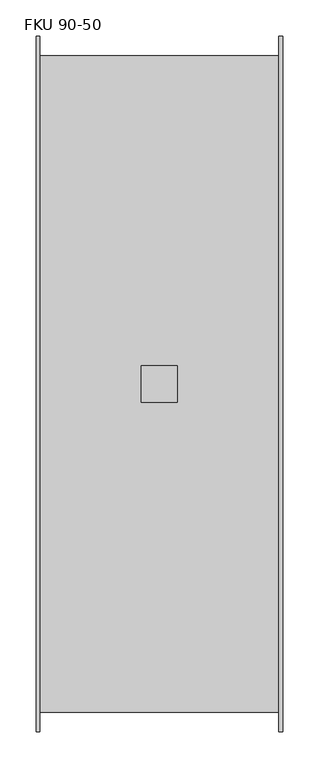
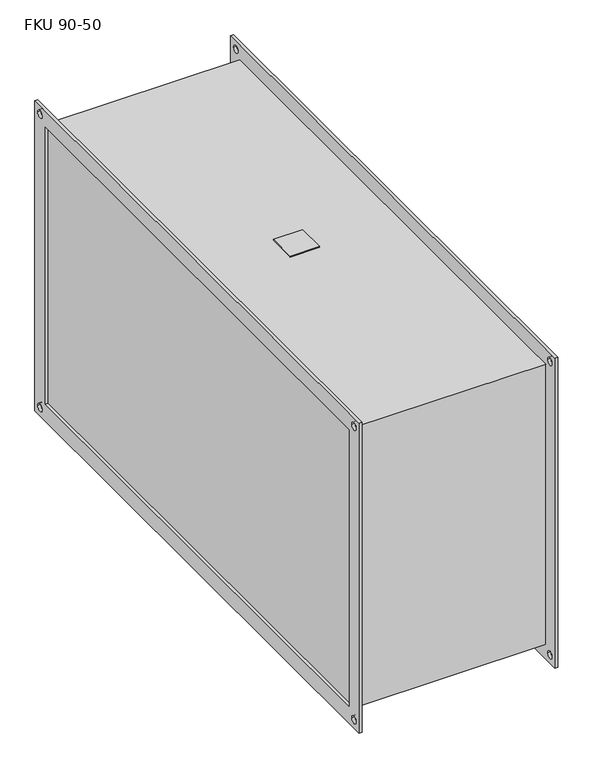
"""IFC4 building model written with IfcOpenShell, lengths in millimetres: damper geometry, KORF_Фильтр_Карманный_Укороченный_FKU : FKU 90-50."""

from ifc_helpers import new_model, si_unit, point, frame, frame_2d, origin, place, context, project, spatial, polyline, circle_curve, trimmed, segment, composite_curve, outline, extrude, source, transform, mapped, element, save


def fku_90_50_6f7e69bd(model_context):
    return source(origin(), model_context, "Body", "SweptSolid", [
        extrude(outline(polyline([(145.0, -25.0), (145.0, 25.0), (195.0, 25.0), (195.0, -25.0), (145.0, -25.0)])), frame((0.0, 0.0, 253.0), z_axis=(0.0, 0.0, 1.0), x_axis=(1.0, 0.0, 0.0)), (0.0, 0.0, 1.0), 2.0),
        extrude(outline(polyline([(-480.0, 280.0), (480.0, 280.0), (480.0, -280.0), (-480.0, -280.0), (-480.0, 280.0)]), holes=[polyline([(-450.0, 250.0), (-450.0, -250.0), (450.0, -250.0), (450.0, 250.0), (-450.0, 250.0)]), composite_curve([segment(trimmed(circle_curve(frame_2d((465.0, 265.0)), 6.5), [point((458.5, 265.0))], [point((471.5, 265.0))], True, "CARTESIAN"), True, "CONTINUOUS"), segment(trimmed(circle_curve(frame_2d((465.0, 265.0)), 6.5), [point((471.5, 265.0))], [point((458.5, 265.0))], True, "CARTESIAN"), True, "CONTINUOUS")], self_intersect=False), composite_curve([segment(trimmed(circle_curve(frame_2d((-465.0, 265.0)), 6.5), [point((-471.5, 265.0))], [point((-458.5, 265.0))], True, "CARTESIAN"), True, "CONTINUOUS"), segment(trimmed(circle_curve(frame_2d((-465.0, 265.0)), 6.5), [point((-458.5, 265.0))], [point((-471.5, 265.0))], True, "CARTESIAN"), True, "CONTINUOUS")], self_intersect=False), composite_curve([segment(trimmed(circle_curve(frame_2d((-465.0, -265.0)), 6.5), [point((-471.5, -265.0))], [point((-458.5, -265.0))], True, "CARTESIAN"), True, "CONTINUOUS"), segment(trimmed(circle_curve(frame_2d((-465.0, -265.0)), 6.5), [point((-458.5, -265.0))], [point((-471.5, -265.0))], True, "CARTESIAN"), True, "CONTINUOUS")], self_intersect=False), composite_curve([segment(trimmed(circle_curve(frame_2d((465.0, -265.0)), 6.5), [point((458.5, -265.0))], [point((471.5, -265.0))], True, "CARTESIAN"), True, "CONTINUOUS"), segment(trimmed(circle_curve(frame_2d((465.0, -265.0)), 6.5), [point((471.5, -265.0))], [point((458.5, -265.0))], True, "CARTESIAN"), True, "CONTINUOUS")], self_intersect=False)]), frame((335.0, 0.0, 0.0), z_axis=(1.0, 0.0, 0.0), x_axis=(0.0, 1.0, 0.0)), (0.0, 0.0, 1.0), 5.0),
        extrude(outline(polyline([(-480.0, 280.0), (480.0, 280.0), (480.0, -280.0), (-480.0, -280.0), (-480.0, 280.0)]), holes=[polyline([(-450.0, 250.0), (-450.0, -250.0), (450.0, -250.0), (450.0, 250.0), (-450.0, 250.0)]), composite_curve([segment(trimmed(circle_curve(frame_2d((465.0, 265.0)), 6.5), [point((458.5, 265.0))], [point((471.5, 265.0))], True, "CARTESIAN"), True, "CONTINUOUS"), segment(trimmed(circle_curve(frame_2d((465.0, 265.0)), 6.5), [point((471.5, 265.0))], [point((458.5, 265.0))], True, "CARTESIAN"), True, "CONTINUOUS")], self_intersect=False), composite_curve([segment(trimmed(circle_curve(frame_2d((-465.0, 265.0)), 6.5), [point((-471.5, 265.0))], [point((-458.5, 265.0))], True, "CARTESIAN"), True, "CONTINUOUS"), segment(trimmed(circle_curve(frame_2d((-465.0, 265.0)), 6.5), [point((-458.5, 265.0))], [point((-471.5, 265.0))], True, "CARTESIAN"), True, "CONTINUOUS")], self_intersect=False), composite_curve([segment(trimmed(circle_curve(frame_2d((-465.0, -265.0)), 6.5), [point((-471.5, -265.0))], [point((-458.5, -265.0))], True, "CARTESIAN"), True, "CONTINUOUS"), segment(trimmed(circle_curve(frame_2d((-465.0, -265.0)), 6.5), [point((-458.5, -265.0))], [point((-471.5, -265.0))], True, "CARTESIAN"), True, "CONTINUOUS")], self_intersect=False), composite_curve([segment(trimmed(circle_curve(frame_2d((465.0, -265.0)), 6.5), [point((458.5, -265.0))], [point((471.5, -265.0))], True, "CARTESIAN"), True, "CONTINUOUS"), segment(trimmed(circle_curve(frame_2d((465.0, -265.0)), 6.5), [point((471.5, -265.0))], [point((458.5, -265.0))], True, "CARTESIAN"), True, "CONTINUOUS")], self_intersect=False)]), frame((0.0, 0.0, 0.0), z_axis=(1.0, 0.0, 0.0), x_axis=(0.0, 1.0, 0.0)), (0.0, 0.0, 1.0), 5.0),
        extrude(outline(polyline([(335.0, 453.0), (335.0, -453.0), (5.0, -453.0), (5.0, 453.0), (335.0, 453.0)])), frame((0.0, 0.0, -253.0), z_axis=(0.0, 0.0, 1.0), x_axis=(1.0, 0.0, 0.0)), (0.0, 0.0, 1.0), 506.0),
    ])


if __name__ == "__main__":
    model = new_model("IFC4")
    model_context = context("Model", 3, world=origin())
    ifc_project = project(units=[si_unit("LENGTHUNIT", "METRE", prefix="MILLI")], contexts=[model_context])
    site = spatial("IfcSite", under=ifc_project)
    building = spatial("IfcBuilding", under=site)
    placement = place(None, origin())
    fku_90_50_shape = fku_90_50_6f7e69bd(model_context)
    element("IfcDamper", 1, ObjectType="KORF_Фильтр_Карманный_Укороченный_FKU : FKU 90-50", at=placement, inside=building, context=model_context, shape_type="MappedRepresentation", body=[
        mapped(fku_90_50_shape, transform((0.0, 0.0, 0.0), x_axis=(1.0, 0.0, 0.0), y_axis=(0.0, 1.0, 0.0), z_axis=(0.0, 0.0, 1.0))),
    ])
    save(model, "model.ifc")
